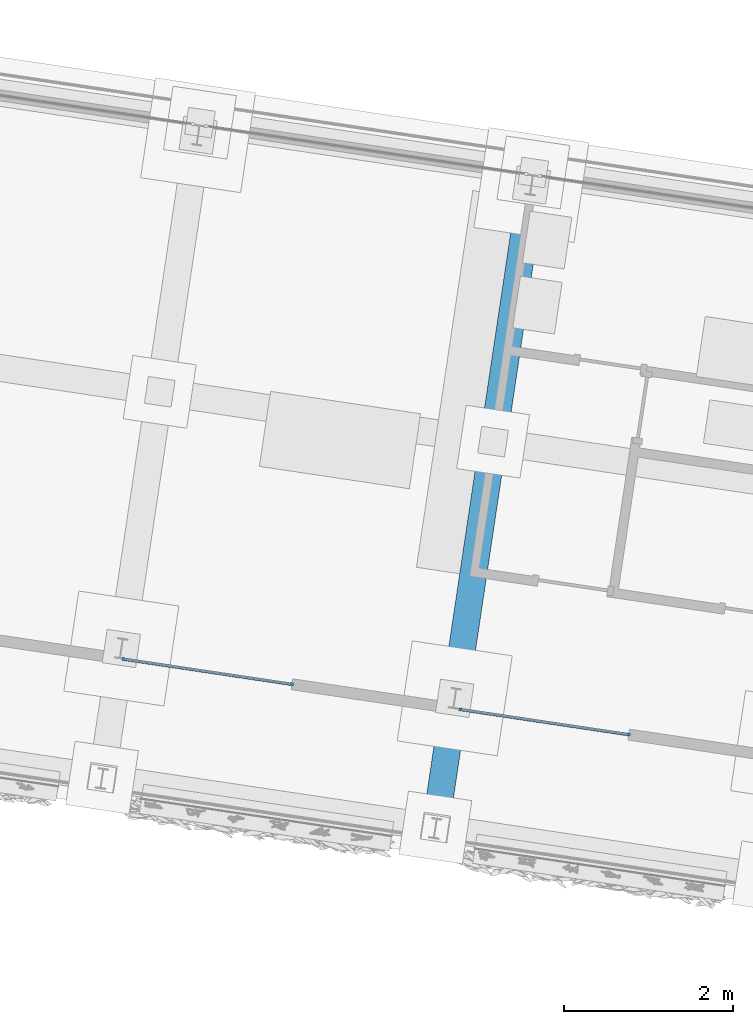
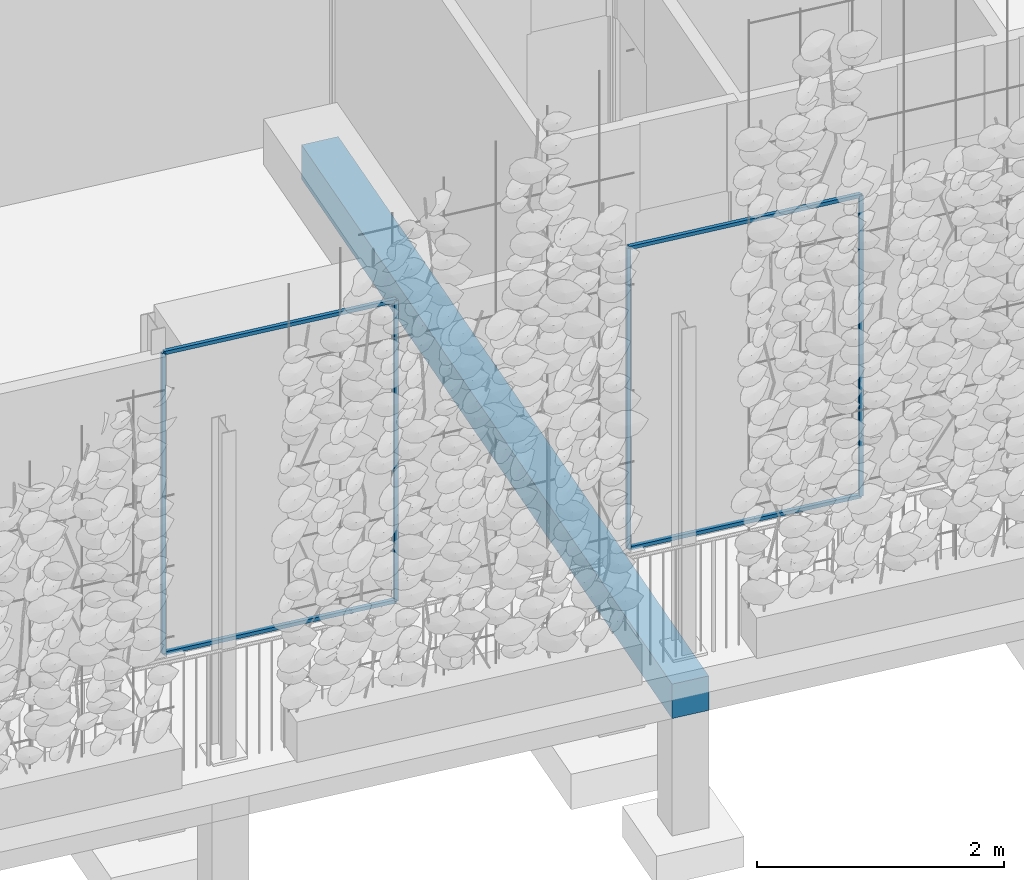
# One storey, part 64 of 142: 8 members, 1 beam, 1 element without a shape of its own.
"""IFC4 building model written with IfcOpenShell, lengths in metres."""

import ifcopenshell
import ifcopenshell.guid

model = None  # the IFC model being written
_history = None  # IfcOwnerHistory: only IFC2X3 demands one
_inside = {}  # id of a spatial element -> (the spatial element, [elements in it])
_under = {}  # id of a project, library or spatial element -> (it, [spatial elements below it])
_declared = {}  # id of a project -> (the project, [libraries it declares])
_typed = {}  # id of a type object -> (the type object, [elements of that type])
_made_of = {}  # id of a material, layer set ... -> (it, [elements and type objects made of it])


def new_model(schema):
    """Start an empty IFC model of exactly this schema.

    Asked for "IFC4X3", IfcOpenShell would pick the latest addendum, in which some entities
    have other attributes; the version numbers below select the first issue.
    IFC2X3 requires an IfcOwnerHistory on every rooted entity: one is made here for all.
    """
    global model, _history
    if schema == "IFC4X3":
        model = ifcopenshell.file(schema_version=(4, 3, 0, 0))
    else:
        model = ifcopenshell.file(schema=schema)
    _inside.clear()
    _under.clear()
    _declared.clear()
    _typed.clear()
    _made_of.clear()
    _history = None
    if model.schema == "IFC2X3":
        org = make("IfcOrganization", Name="unknown")
        user = make(
            "IfcPersonAndOrganization",
            ThePerson=make("IfcPerson", FamilyName="unknown"),
            TheOrganization=org,
        )
        app = make(
            "IfcApplication",
            ApplicationDeveloper=org,
            Version="unknown",
            ApplicationFullName="unknown",
            ApplicationIdentifier="unknown",
        )
        _history = make(
            "IfcOwnerHistory",
            OwningUser=user,
            OwningApplication=app,
            ChangeAction="ADDED",
            CreationDate=0,
        )
    return model


def make(cls, **values):
    """One entity of the class cls with the attributes given. An attribute that is None is left unset."""
    return model.create_entity(
        cls, **{name: value for name, value in values.items() if value is not None}
    )


def rooted(cls, **values):
    """An entity with a GlobalId (a new one), such as an element, a storey or a relation."""
    return make(cls, GlobalId=ifcopenshell.guid.new(), OwnerHistory=_history, **values)


def si_unit(unit_type, name, prefix=None):
    """IfcSIUnit, for example si_unit("LENGTHUNIT", "METRE", prefix="MILLI")."""
    return make("IfcSIUnit", UnitType=unit_type, Prefix=prefix, Name=name)


def assignment(units):
    """IfcUnitAssignment: the units of a project."""
    return None if units is None else make("IfcUnitAssignment", Units=units)


def point(xyz):
    """IfcCartesianPoint."""
    return None if xyz is None else make("IfcCartesianPoint", Coordinates=xyz)


def direction(xyz):
    """IfcDirection."""
    return None if xyz is None else make("IfcDirection", DirectionRatios=xyz)


def frame(location, z_axis=None, x_axis=None):
    """IfcAxis2Placement3D, a coordinate frame: its origin and axes. An axis left out is left unset."""
    return make(
        "IfcAxis2Placement3D",
        Location=point(location),
        Axis=direction(z_axis),
        RefDirection=direction(x_axis),
    )


def origin_with_axes():
    """The frame at (0, 0, 0) with the z axis (0, 0, 1) and the x axis (1, 0, 0) written out."""
    return frame((0.0, 0.0, 0.0), z_axis=(0.0, 0.0, 1.0), x_axis=(1.0, 0.0, 0.0))


def place(relative_to, where):
    """IfcLocalPlacement: puts the frame where relative to a parent placement (None: the world)."""
    return make(
        "IfcLocalPlacement", PlacementRelTo=relative_to, RelativePlacement=where
    )


def context(
    kind, dimensions, precision=None, world=None, true_north=None, identifier=None
):
    """IfcGeometricRepresentationContext, for example the 3D "Model" context."""
    return make(
        "IfcGeometricRepresentationContext",
        ContextIdentifier=identifier,
        ContextType=kind,
        CoordinateSpaceDimension=dimensions,
        Precision=precision,
        WorldCoordinateSystem=world,
        TrueNorth=true_north,
    )


def subcontext(parent, identifier, kind, view, scale=None):
    """IfcGeometricRepresentationSubContext, for example "Body" below "Model"."""
    return make(
        "IfcGeometricRepresentationSubContext",
        ContextIdentifier=identifier,
        ContextType=kind,
        ParentContext=parent,
        TargetScale=scale,
        TargetView=view,
    )


def project(units=None, contexts=None):
    """IfcProject with its units and contexts."""
    return rooted(
        "IfcProject",
        Name="project",
        RepresentationContexts=contexts,
        UnitsInContext=assignment(units),
    )


def spatial(cls, under=None, at=None, **own):
    """A site, building, storey or space (cls), placed at a placement, below another one or the project."""
    s = rooted(cls, ObjectPlacement=at, **own)
    if under is not None:
        _under.setdefault(under.id(), (under, []))[1].append(s)
    return s


def polyline(points):
    """IfcPolyline through the points."""
    return make("IfcPolyline", Points=[point(p) for p in points])


def profile(cls, at=None, kind="AREA", **sizes):
    """A parametric profile (cls). Its sizes go by their IFC names, for example OverallWidth=200.0."""
    return make(cls, ProfileType=kind, Position=at, **sizes)


def rectangle(**sizes):
    """IfcRectangleProfileDef."""
    return profile("IfcRectangleProfileDef", **sizes)


def outline(outer, holes=None, kind="AREA"):
    """IfcArbitraryClosedProfileDef: a profile drawn as a closed curve; with holes, ...WithVoids."""
    if holes is None:
        return make("IfcArbitraryClosedProfileDef", ProfileType=kind, OuterCurve=outer)
    return make(
        "IfcArbitraryProfileDefWithVoids",
        ProfileType=kind,
        OuterCurve=outer,
        InnerCurves=holes,
    )


def extrude(swept, where, along, depth):
    """IfcExtrudedAreaSolid: the profile swept, set in the frame where, extruded along a direction by depth."""
    return make(
        "IfcExtrudedAreaSolid",
        SweptArea=swept,
        Position=where,
        ExtrudedDirection=direction(along),
        Depth=depth,
    )


def shape(context_of_items, identifier, shape_type, items):
    """IfcShapeRepresentation: the items that make up one representation, for example the "Body"."""
    return make(
        "IfcShapeRepresentation",
        ContextOfItems=context_of_items,
        RepresentationIdentifier=identifier,
        RepresentationType=shape_type,
        Items=items,
    )


def material(Name=None, Category=None):
    """IfcMaterial."""
    return make("IfcMaterial", Name=Name, Category=Category)


def material_profile(
    of_material, cross_section, Name=None, Category=None, Priority=None
):
    """IfcMaterialProfile: a cross section and its material."""
    return make(
        "IfcMaterialProfile",
        Name=Name,
        Material=of_material,
        Profile=cross_section,
        Priority=Priority,
        Category=Category,
    )


def profile_set(profiles, Name=None, composite=None):
    """IfcMaterialProfileSet."""
    return make(
        "IfcMaterialProfileSet",
        Name=Name,
        MaterialProfiles=profiles,
        CompositeProfile=composite,
    )


def profile_usage(for_profile_set, cardinal=None, extent=None):
    """IfcMaterialProfileSetUsage: how a profile set lies along its element."""
    return make(
        "IfcMaterialProfileSetUsage",
        ForProfileSet=for_profile_set,
        CardinalPoint=cardinal,
        ReferenceExtent=extent,
    )


def made_of(thing, what):
    """Note that an element or type object is made of a material, layer set ...; save() writes the relation."""
    if what is not None:
        _made_of.setdefault(what.id(), (what, []))[1].append(thing)
    return thing


def type_object(cls, material=None, **own):
    """A type object (cls), such as IfcWallType, which elements share."""
    return made_of(rooted(cls, **own), material)


def element(
    cls,
    number,
    at=None,
    inside=None,
    cuts=None,
    type_object=None,
    material=None,
    context=None,
    identifier="Body",
    shape_type=None,
    held_by="IfcProductDefinitionShape",
    body=None,
    shapes=None,
    **own,
):
    """One element of the class cls, such as IfcWall. Its Tag is "e" and its number.

    at: its placement. inside: the storey or other place that contains it. cuts: it is an
    opening in that element (IfcRelVoidsElement). A single representation is given by context,
    identifier, shape_type and body (its items); several are given by shapes. held_by: the class
    of the entity that holds the representations. save() writes the other relations.
    """
    e = rooted(cls, Tag="e%d" % number, ObjectPlacement=at, **own)
    if body is not None:
        shapes = [shape(context, identifier, shape_type, body)]
    if shapes is not None:
        e.Representation = make(held_by, Representations=shapes)
    if inside is not None:
        _inside.setdefault(inside.id(), (inside, []))[1].append(e)
    if cuts is not None:
        rooted(
            "IfcRelVoidsElement", RelatingBuildingElement=cuts, RelatedOpeningElement=e
        )
    if type_object is not None:
        _typed.setdefault(type_object.id(), (type_object, []))[1].append(e)
    return made_of(e, material)


def aggregate(whole, parts):
    """IfcRelAggregates: a whole, such as a stair, and the parts it consists of."""
    return rooted("IfcRelAggregates", RelatingObject=whole, RelatedObjects=parts)


def save(model, path):
    """Write the relations noted so far, then the file.

    IfcRelAggregates (storeys below a building ...), IfcRelContainedInSpatialStructure (elements
    in a storey), IfcRelDefinesByType, IfcRelAssociatesMaterial and IfcRelDeclares: one each for
    every whole, place, type object, material and project.
    """
    for whole, parts in _under.values():
        aggregate(whole, parts)
    for where, things in _inside.values():
        rooted(
            "IfcRelContainedInSpatialStructure",
            RelatedElements=things,
            RelatingStructure=where,
        )
    for kind, things in _typed.values():
        rooted("IfcRelDefinesByType", RelatedObjects=things, RelatingType=kind)
    for what, things in _made_of.values():
        rooted("IfcRelAssociatesMaterial", RelatedObjects=things, RelatingMaterial=what)
    for by, libraries in _declared.values():
        rooted("IfcRelDeclares", RelatingContext=by, RelatedDefinitions=libraries)
    model.write(path)


model = new_model("IFC4")

# Units and contexts
model_context = context("Model", 3, precision=1e-05, world=origin_with_axes(), true_north=direction((0.0, 1.0)))
body_context = subcontext(model_context, "Body", "Model", "MODEL_VIEW")
ifc_project = project(units=[si_unit("AREAUNIT", "SQUARE_METRE"), si_unit("VOLUMEUNIT", "CUBIC_METRE"), si_unit("LENGTHUNIT", "METRE")], contexts=[model_context])

# Site, building, storey
site_placement = place(None, origin_with_axes())
site = spatial("IfcSite", under=ifc_project, at=site_placement, Name="Lares · Rua das Mercês · artigo 4771")
building_placement = place(site_placement, frame((15.0, 9.7, 14.65), z_axis=(0.0, 0.0, 1.0), x_axis=(0.989015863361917, -0.147809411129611, 0.0)))
building = spatial("IfcBuilding", under=site, at=building_placement, Name="Casa Sobreposta")
storey_placement = place(building_placement, origin_with_axes())
storey = spatial("IfcBuildingStorey", under=building, at=storey_placement, Name="00 · Habitação e estacionamento", Elevation=14.65)

# Members
ifc_material_1 = material(Name="Aço pintado / Stahl lackiert", Category="steel")
ifc_material_profile = material_profile(ifc_material_1, rectangle(XDim=0.035, YDim=0.035))
ifc_profile_set = profile_set([ifc_material_profile], Name="R0.035")
ifc_profile_usage_1 = profile_usage(ifc_profile_set)
member_type = type_object("IfcMemberType", Name="R0.035 / steel", PredefinedType="NOTDEFINED", material=ifc_profile_set)
member_1_placement = place(storey_placement, frame((4.04266666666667, 0.0, 0.0), z_axis=(0.0, 0.0, 1.0), x_axis=(1.0, 0.0, 0.0)))
element("IfcMember", 1, at=member_1_placement, inside=storey, type_object=member_type, material=ifc_profile_usage_1, Name="Folha de correr sul 2 · montante", context=body_context, shape_type="SweptSolid", body=[
    extrude(rectangle(XDim=0.035, YDim=0.035), origin_with_axes(), (0.0, 0.0, 1.0), 2.968),
])
ifc_profile_usage_2 = profile_usage(ifc_profile_set)
member_2_placement = place(storey_placement, frame((6.064, 0.0, 0.0), z_axis=(0.0, 0.0, 1.0), x_axis=(1.0, 0.0, 0.0)))
element("IfcMember", 2, at=member_2_placement, inside=storey, type_object=member_type, material=ifc_profile_usage_2, Name="Folha de correr sul 2 · montante", context=body_context, shape_type="SweptSolid", body=[
    extrude(rectangle(XDim=0.035, YDim=0.035), origin_with_axes(), (0.0, 0.0, 1.0), 2.968),
])
ifc_profile_usage_3 = profile_usage(ifc_profile_set)
member_3_placement = place(storey_placement, frame((4.04266666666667, 0.0, 0.0), z_axis=(1.0, 0.0, 0.0), x_axis=(0.0, -1.0, 0.0)))
element("IfcMember", 3, at=member_3_placement, inside=storey, type_object=member_type, material=ifc_profile_usage_3, Name="Folha de correr sul 2 · travessa", context=body_context, shape_type="SweptSolid", body=[
    extrude(rectangle(XDim=0.035, YDim=0.035), origin_with_axes(), (0.0, 0.0, 1.0), 2.02133333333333),
])
ifc_profile_usage_4 = profile_usage(ifc_profile_set)
member_4_placement = place(storey_placement, frame((4.04266666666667, 0.0, 2.968), z_axis=(1.0, 0.0, 0.0), x_axis=(0.0, -1.0, 0.0)))
element("IfcMember", 4, at=member_4_placement, inside=storey, type_object=member_type, material=ifc_profile_usage_4, Name="Folha de correr sul 2 · travessa", context=body_context, shape_type="SweptSolid", body=[
    extrude(rectangle(XDim=0.035, YDim=0.035), origin_with_axes(), (0.0, 0.0, 1.0), 2.02133333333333),
])
ifc_profile_usage_5 = profile_usage(ifc_profile_set)
member_5_placement = place(storey_placement, frame((8.08533333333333, 0.0, 0.0), z_axis=(0.0, 0.0, 1.0), x_axis=(1.0, 0.0, 0.0)))
element("IfcMember", 5, at=member_5_placement, inside=storey, type_object=member_type, material=ifc_profile_usage_5, Name="Folha de correr sul 4 · montante", context=body_context, shape_type="SweptSolid", body=[
    extrude(rectangle(XDim=0.035, YDim=0.035), origin_with_axes(), (0.0, 0.0, 1.0), 2.968),
])
ifc_profile_usage_6 = profile_usage(ifc_profile_set)
member_6_placement = place(storey_placement, frame((10.1066666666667, 0.0, 0.0), z_axis=(0.0, 0.0, 1.0), x_axis=(1.0, 0.0, 0.0)))
element("IfcMember", 6, at=member_6_placement, inside=storey, type_object=member_type, material=ifc_profile_usage_6, Name="Folha de correr sul 4 · montante", context=body_context, shape_type="SweptSolid", body=[
    extrude(rectangle(XDim=0.035, YDim=0.035), origin_with_axes(), (0.0, 0.0, 1.0), 2.968),
])
ifc_profile_usage_7 = profile_usage(ifc_profile_set)
member_7_placement = place(storey_placement, frame((8.08533333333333, 0.0, 0.0), z_axis=(1.0, 0.0, 0.0), x_axis=(0.0, -1.0, 0.0)))
element("IfcMember", 7, at=member_7_placement, inside=storey, type_object=member_type, material=ifc_profile_usage_7, Name="Folha de correr sul 4 · travessa", context=body_context, shape_type="SweptSolid", body=[
    extrude(rectangle(XDim=0.035, YDim=0.035), origin_with_axes(), (0.0, 0.0, 1.0), 2.02133333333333),
])
ifc_profile_usage_8 = profile_usage(ifc_profile_set)
member_8_placement = place(storey_placement, frame((8.08533333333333, 0.0, 2.968), z_axis=(1.0, 0.0, 0.0), x_axis=(0.0, -1.0, 0.0)))
element("IfcMember", 8, at=member_8_placement, inside=storey, type_object=member_type, material=ifc_profile_usage_8, Name="Folha de correr sul 4 · travessa", context=body_context, shape_type="SweptSolid", body=[
    extrude(rectangle(XDim=0.035, YDim=0.035), origin_with_axes(), (0.0, 0.0, 1.0), 2.02133333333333),
])

# Assembly, beam
assembly_placement = place(storey_placement, origin_with_axes())
assembly = element("IfcElementAssembly", 9, at=assembly_placement, inside=storey, Name="Pódio · terraço, casa térrea e cisterna", ObjectType="CISTERN_PODIUM", PredefinedType="USERDEFINED")
ifc_material_2 = material(Name="Betão armado / Stahlbeton", Category="concrete")
beam_placement = place(assembly_placement, frame((0.0, 0.0, -0.59), z_axis=(0.0, 0.0, 1.0), x_axis=(1.0, 0.0, 0.0)))
beam = element("IfcBeam", 10, at=beam_placement, material=ifc_material_2, Name="Pódio suspenso · viga transversal", context=body_context, shape_type="SweptSolid", body=[
    extrude(outline(polyline([(8.16, -1.59), (8.16, 6.59), (7.84, 6.59), (7.84, -1.59), (8.16, -1.59)])), origin_with_axes(), (0.0, 0.0, 1.0), 0.34),
])
aggregate(assembly, [beam])

save(model, "model.ifc")
